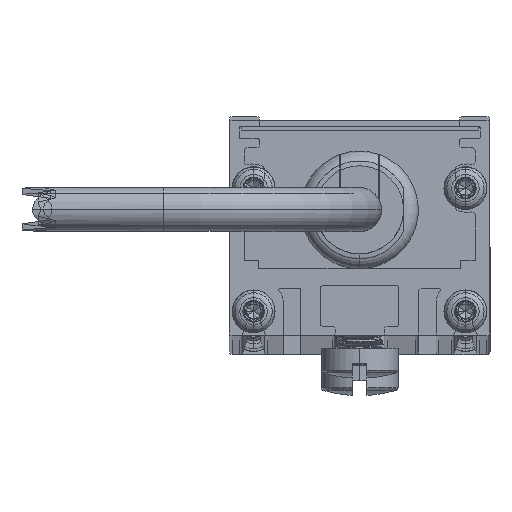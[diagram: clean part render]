
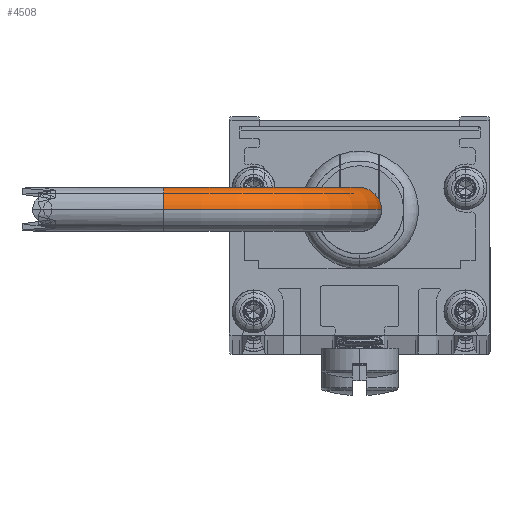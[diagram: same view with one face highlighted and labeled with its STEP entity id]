
A CAD part, top view. The second image highlights one B-rep face of the part: STEP entity #4508.
In plain terms, the highlighted toroidal (fillet/blend) face has major radius 25.4 mm and minor radius 2.845 mm.
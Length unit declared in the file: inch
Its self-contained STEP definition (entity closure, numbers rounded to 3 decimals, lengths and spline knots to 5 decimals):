
#149 = CARTESIAN_POINT ( 'NONE',  ( 1., 0., -2.112 ) ) ;
#1138 = CARTESIAN_POINT ( 'NONE',  ( 1., 0., -1. ) ) ;
#1533 = DIRECTION ( 'NONE',  ( 0., -1., 0. ) ) ;
#2875 = AXIS2_PLACEMENT_3D ( 'NONE', #12984, #11571, #4357 ) ;
#3089 = EDGE_LOOP ( 'NONE', ( #6026, #6516, #3404, #7305 ) ) ;
#3404 = ORIENTED_EDGE ( 'NONE', *, *, #18583, .T. ) ;
#3676 = AXIS2_PLACEMENT_3D ( 'NONE', #18650, #14343, #15801 ) ;
#3983 = EDGE_CURVE ( 'NONE', #14554, #8956, #11202, .T. ) ;
#4357 = DIRECTION ( 'NONE',  ( 0., 0., -1. ) ) ;
#4508 = ADVANCED_FACE ( 'NONE', ( #5507 ), #5271, .T. ) ;
#5271 = TOROIDAL_SURFACE ( 'NONE', #2875, 1., 0.112 ) ;
#5507 = FACE_OUTER_BOUND ( 'NONE', #3089, .T. ) ;
#5809 = CIRCLE ( 'NONE', #3676, 0.112 ) ;
#6026 = ORIENTED_EDGE ( 'NONE', *, *, #3983, .F. ) ;
#6105 = VERTEX_POINT ( 'NONE', #6916 ) ;
#6219 = CARTESIAN_POINT ( 'NONE',  ( -0.112, 0., -1. ) ) ;
#6516 = ORIENTED_EDGE ( 'NONE', *, *, #18088, .F. ) ;
#6916 = CARTESIAN_POINT ( 'NONE',  ( 1., 0., -1.888 ) ) ;
#7073 = CARTESIAN_POINT ( 'NONE',  ( 1., 0., -1. ) ) ;
#7102 = DIRECTION ( 'NONE',  ( 1., 0., 0. ) ) ;
#7305 = ORIENTED_EDGE ( 'NONE', *, *, #9692, .T. ) ;
#8176 = AXIS2_PLACEMENT_3D ( 'NONE', #14885, #17786, #16840 ) ;
#8956 = VERTEX_POINT ( 'NONE', #149 ) ;
#9026 = AXIS2_PLACEMENT_3D ( 'NONE', #1138, #12801, #7102 ) ;
#9682 = AXIS2_PLACEMENT_3D ( 'NONE', #7073, #1533, #10265 ) ;
#9692 = EDGE_CURVE ( 'NONE', #6105, #8956, #15027, .T. ) ;
#10265 = DIRECTION ( 'NONE',  ( 1., 0., 0. ) ) ;
#10441 = CARTESIAN_POINT ( 'NONE',  ( 0.112, 0., -1. ) ) ;
#11202 = CIRCLE ( 'NONE', #9682, 1.112 ) ;
#11571 = DIRECTION ( 'NONE',  ( 0., -1., 0. ) ) ;
#12801 = DIRECTION ( 'NONE',  ( 0., -1., 0. ) ) ;
#12984 = CARTESIAN_POINT ( 'NONE',  ( 1., 0., -1. ) ) ;
#14343 = DIRECTION ( 'NONE',  ( 0., 0., 1. ) ) ;
#14554 = VERTEX_POINT ( 'NONE', #6219 ) ;
#14885 = CARTESIAN_POINT ( 'NONE',  ( 1., 0., -2. ) ) ;
#15027 = CIRCLE ( 'NONE', #8176, 0.112 ) ;
#15583 = CIRCLE ( 'NONE', #9026, 0.888 ) ;
#15801 = DIRECTION ( 'NONE',  ( 1., 0., 0. ) ) ;
#16840 = DIRECTION ( 'NONE',  ( 0., 0., 1. ) ) ;
#17726 = VERTEX_POINT ( 'NONE', #10441 ) ;
#17786 = DIRECTION ( 'NONE',  ( -1., 0., 0. ) ) ;
#18088 = EDGE_CURVE ( 'NONE', #17726, #14554, #5809, .T. ) ;
#18583 = EDGE_CURVE ( 'NONE', #17726, #6105, #15583, .T. ) ;
#18650 = CARTESIAN_POINT ( 'NONE',  ( 0., 0., -1. ) ) ;
